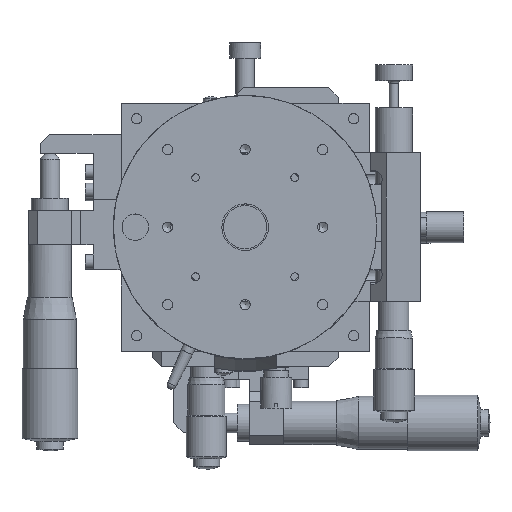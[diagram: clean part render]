
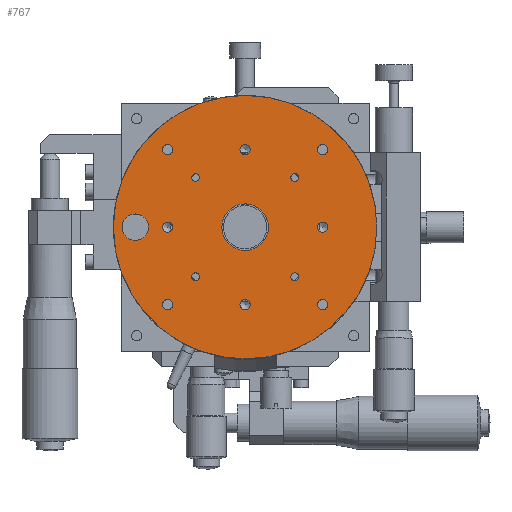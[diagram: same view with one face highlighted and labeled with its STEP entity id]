
A CAD part, top view. The second image highlights one B-rep face of the part: STEP entity #767.
In plain terms, the highlighted planar face has unit normal (0, 0, 1).
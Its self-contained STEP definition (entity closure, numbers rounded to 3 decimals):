
#767 = ADVANCED_FACE( '', ( #1641, #1642, #1643, #1644, #1645, #1646, #1647, #1648, #1649, #1650, #1651, #1652, #1653, #1654, #1655 ), #1656, .T. );
#1641 = FACE_BOUND( '', #3610, .T. );
#1642 = FACE_BOUND( '', #3611, .T. );
#1643 = FACE_BOUND( '', #3612, .T. );
#1644 = FACE_BOUND( '', #3613, .T. );
#1645 = FACE_BOUND( '', #3614, .T. );
#1646 = FACE_BOUND( '', #3615, .T. );
#1647 = FACE_BOUND( '', #3616, .T. );
#1648 = FACE_BOUND( '', #3617, .T. );
#1649 = FACE_BOUND( '', #3618, .T. );
#1650 = FACE_BOUND( '', #3619, .T. );
#1651 = FACE_BOUND( '', #3620, .T. );
#1652 = FACE_BOUND( '', #3621, .T. );
#1653 = FACE_BOUND( '', #3622, .T. );
#1654 = FACE_BOUND( '', #3623, .T. );
#1655 = FACE_OUTER_BOUND( '', #3624, .T. );
#1656 = PLANE( '', #3625 );
#3610 = EDGE_LOOP( '', ( #5817 ) );
#3611 = EDGE_LOOP( '', ( #5818 ) );
#3612 = EDGE_LOOP( '', ( #5819 ) );
#3613 = EDGE_LOOP( '', ( #5820 ) );
#3614 = EDGE_LOOP( '', ( #5821 ) );
#3615 = EDGE_LOOP( '', ( #5822 ) );
#3616 = EDGE_LOOP( '', ( #5823 ) );
#3617 = EDGE_LOOP( '', ( #5824 ) );
#3618 = EDGE_LOOP( '', ( #5825 ) );
#3619 = EDGE_LOOP( '', ( #5826 ) );
#3620 = EDGE_LOOP( '', ( #5827 ) );
#3621 = EDGE_LOOP( '', ( #5828 ) );
#3622 = EDGE_LOOP( '', ( #5829 ) );
#3623 = EDGE_LOOP( '', ( #5830 ) );
#3624 = EDGE_LOOP( '', ( #5831 ) );
#3625 = AXIS2_PLACEMENT_3D( '', #5832, #5833, #5834 );
#5817 = ORIENTED_EDGE( '', *, *, #11021, .T. );
#5818 = ORIENTED_EDGE( '', *, *, #11022, .T. );
#5819 = ORIENTED_EDGE( '', *, *, #11023, .T. );
#5820 = ORIENTED_EDGE( '', *, *, #11024, .T. );
#5821 = ORIENTED_EDGE( '', *, *, #11025, .T. );
#5822 = ORIENTED_EDGE( '', *, *, #11026, .T. );
#5823 = ORIENTED_EDGE( '', *, *, #11027, .T. );
#5824 = ORIENTED_EDGE( '', *, *, #11028, .T. );
#5825 = ORIENTED_EDGE( '', *, *, #11029, .T. );
#5826 = ORIENTED_EDGE( '', *, *, #11030, .T. );
#5827 = ORIENTED_EDGE( '', *, *, #11000, .T. );
#5828 = ORIENTED_EDGE( '', *, *, #10999, .T. );
#5829 = ORIENTED_EDGE( '', *, *, #11003, .T. );
#5830 = ORIENTED_EDGE( '', *, *, #11005, .T. );
#5831 = ORIENTED_EDGE( '', *, *, #11031, .T. );
#5832 = CARTESIAN_POINT( '', ( 0., -42.5, 102. ) );
#5833 = DIRECTION( '', ( 0., 0., 1. ) );
#5834 = DIRECTION( '', ( 0., 1., 0. ) );
#10999 = EDGE_CURVE( '', #12744, #12744, #12745, .T. );
#11000 = EDGE_CURVE( '', #12746, #12746, #12747, .T. );
#11003 = EDGE_CURVE( '', #12751, #12751, #12752, .T. );
#11005 = EDGE_CURVE( '', #12755, #12755, #12756, .F. );
#11021 = EDGE_CURVE( '', #12784, #12784, #12785, .T. );
#11022 = EDGE_CURVE( '', #12786, #12786, #12787, .T. );
#11023 = EDGE_CURVE( '', #12788, #12788, #12789, .T. );
#11024 = EDGE_CURVE( '', #12790, #12790, #12791, .T. );
#11025 = EDGE_CURVE( '', #12792, #12792, #12793, .T. );
#11026 = EDGE_CURVE( '', #12794, #12794, #12795, .T. );
#11027 = EDGE_CURVE( '', #12796, #12796, #12797, .T. );
#11028 = EDGE_CURVE( '', #12798, #12798, #12799, .T. );
#11029 = EDGE_CURVE( '', #12800, #12800, #12801, .T. );
#11030 = EDGE_CURVE( '', #12802, #12802, #12803, .T. );
#11031 = EDGE_CURVE( '', #12804, #12804, #12805, .T. );
#12744 = VERTEX_POINT( '', #15676 );
#12745 = CIRCLE( '', #15677, 1.65 );
#12746 = VERTEX_POINT( '', #15678 );
#12747 = CIRCLE( '', #15679, 1.65 );
#12751 = VERTEX_POINT( '', #15683 );
#12752 = CIRCLE( '', #15684, 1.65 );
#12755 = VERTEX_POINT( '', #15687 );
#12756 = CIRCLE( '', #15688, 4.25 );
#12784 = VERTEX_POINT( '', #15716 );
#12785 = CIRCLE( '', #15717, 7.5 );
#12786 = VERTEX_POINT( '', #15718 );
#12787 = CIRCLE( '', #15719, 1.25 );
#12788 = VERTEX_POINT( '', #15720 );
#12789 = CIRCLE( '', #15721, 1.25 );
#12790 = VERTEX_POINT( '', #15722 );
#12791 = CIRCLE( '', #15723, 1.25 );
#12792 = VERTEX_POINT( '', #15724 );
#12793 = CIRCLE( '', #15725, 1.25 );
#12794 = VERTEX_POINT( '', #15726 );
#12795 = CIRCLE( '', #15727, 1.65 );
#12796 = VERTEX_POINT( '', #15728 );
#12797 = CIRCLE( '', #15729, 1.65 );
#12798 = VERTEX_POINT( '', #15730 );
#12799 = CIRCLE( '', #15731, 1.65 );
#12800 = VERTEX_POINT( '', #15732 );
#12801 = CIRCLE( '', #15733, 1.65 );
#12802 = VERTEX_POINT( '', #15734 );
#12803 = CIRCLE( '', #15735, 1.65 );
#12804 = VERTEX_POINT( '', #15736 );
#12805 = CIRCLE( '', #15737, 42.5 );
#15676 = CARTESIAN_POINT( '', ( 0., 26.65, 102. ) );
#15677 = AXIS2_PLACEMENT_3D( '', #19918, #19919, #19920 );
#15678 = CARTESIAN_POINT( '', ( -25., 26.65, 102. ) );
#15679 = AXIS2_PLACEMENT_3D( '', #19921, #19922, #19923 );
#15683 = CARTESIAN_POINT( '', ( 25., 26.65, 102. ) );
#15684 = AXIS2_PLACEMENT_3D( '', #19930, #19931, #19932 );
#15687 = CARTESIAN_POINT( '', ( -35.4, 4.25, 102. ) );
#15688 = AXIS2_PLACEMENT_3D( '', #19936, #19937, #19938 );
#15716 = CARTESIAN_POINT( '', ( 0., 7.5, 102. ) );
#15717 = AXIS2_PLACEMENT_3D( '', #19984, #19985, #19986 );
#15718 = CARTESIAN_POINT( '', ( 16., -14.75, 102. ) );
#15719 = AXIS2_PLACEMENT_3D( '', #19987, #19988, #19989 );
#15720 = CARTESIAN_POINT( '', ( -16., -14.75, 102. ) );
#15721 = AXIS2_PLACEMENT_3D( '', #19990, #19991, #19992 );
#15722 = CARTESIAN_POINT( '', ( -16., 17.25, 102. ) );
#15723 = AXIS2_PLACEMENT_3D( '', #19993, #19994, #19995 );
#15724 = CARTESIAN_POINT( '', ( 16., 17.25, 102. ) );
#15725 = AXIS2_PLACEMENT_3D( '', #19996, #19997, #19998 );
#15726 = CARTESIAN_POINT( '', ( 25., 1.65, 102. ) );
#15727 = AXIS2_PLACEMENT_3D( '', #19999, #20000, #20001 );
#15728 = CARTESIAN_POINT( '', ( 25., -23.35, 102. ) );
#15729 = AXIS2_PLACEMENT_3D( '', #20002, #20003, #20004 );
#15730 = CARTESIAN_POINT( '', ( 0., -23.35, 102. ) );
#15731 = AXIS2_PLACEMENT_3D( '', #20005, #20006, #20007 );
#15732 = CARTESIAN_POINT( '', ( -25., -23.35, 102. ) );
#15733 = AXIS2_PLACEMENT_3D( '', #20008, #20009, #20010 );
#15734 = CARTESIAN_POINT( '', ( -25., 1.65, 102. ) );
#15735 = AXIS2_PLACEMENT_3D( '', #20011, #20012, #20013 );
#15736 = CARTESIAN_POINT( '', ( 0., 42.5, 102. ) );
#15737 = AXIS2_PLACEMENT_3D( '', #20014, #20015, #20016 );
#19918 = CARTESIAN_POINT( '', ( 0., 25., 102. ) );
#19919 = DIRECTION( '', ( 0., 0., -1. ) );
#19920 = DIRECTION( '', ( 0., 1., 0. ) );
#19921 = CARTESIAN_POINT( '', ( -25., 25., 102. ) );
#19922 = DIRECTION( '', ( 0., 0., -1. ) );
#19923 = DIRECTION( '', ( 0., 1., 0. ) );
#19930 = CARTESIAN_POINT( '', ( 25., 25., 102. ) );
#19931 = DIRECTION( '', ( 0., 0., -1. ) );
#19932 = DIRECTION( '', ( 0., 1., 0. ) );
#19936 = CARTESIAN_POINT( '', ( -35.4, 0., 102. ) );
#19937 = DIRECTION( '', ( 0., 0., 1. ) );
#19938 = DIRECTION( '', ( 0., 1., 0. ) );
#19984 = CARTESIAN_POINT( '', ( 0., 0., 102. ) );
#19985 = DIRECTION( '', ( 0., 0., -1. ) );
#19986 = DIRECTION( '', ( 0., 1., 0. ) );
#19987 = CARTESIAN_POINT( '', ( 16., -16., 102. ) );
#19988 = DIRECTION( '', ( 0., 0., -1. ) );
#19989 = DIRECTION( '', ( 0., 1., 0. ) );
#19990 = CARTESIAN_POINT( '', ( -16., -16., 102. ) );
#19991 = DIRECTION( '', ( 0., 0., -1. ) );
#19992 = DIRECTION( '', ( 0., 1., 0. ) );
#19993 = CARTESIAN_POINT( '', ( -16., 16., 102. ) );
#19994 = DIRECTION( '', ( 0., 0., -1. ) );
#19995 = DIRECTION( '', ( 0., 1., 0. ) );
#19996 = CARTESIAN_POINT( '', ( 16., 16., 102. ) );
#19997 = DIRECTION( '', ( 0., 0., -1. ) );
#19998 = DIRECTION( '', ( 0., 1., 0. ) );
#19999 = CARTESIAN_POINT( '', ( 25., 0., 102. ) );
#20000 = DIRECTION( '', ( 0., 0., -1. ) );
#20001 = DIRECTION( '', ( 0., 1., 0. ) );
#20002 = CARTESIAN_POINT( '', ( 25., -25., 102. ) );
#20003 = DIRECTION( '', ( 0., 0., -1. ) );
#20004 = DIRECTION( '', ( 0., 1., 0. ) );
#20005 = CARTESIAN_POINT( '', ( 0., -25., 102. ) );
#20006 = DIRECTION( '', ( 0., 0., -1. ) );
#20007 = DIRECTION( '', ( 0., 1., 0. ) );
#20008 = CARTESIAN_POINT( '', ( -25., -25., 102. ) );
#20009 = DIRECTION( '', ( 0., 0., -1. ) );
#20010 = DIRECTION( '', ( 0., 1., 0. ) );
#20011 = CARTESIAN_POINT( '', ( -25., 0., 102. ) );
#20012 = DIRECTION( '', ( 0., 0., -1. ) );
#20013 = DIRECTION( '', ( 0., 1., 0. ) );
#20014 = CARTESIAN_POINT( '', ( 0., 0., 102. ) );
#20015 = DIRECTION( '', ( 0., 0., 1. ) );
#20016 = DIRECTION( '', ( 0., 1., 0. ) );
